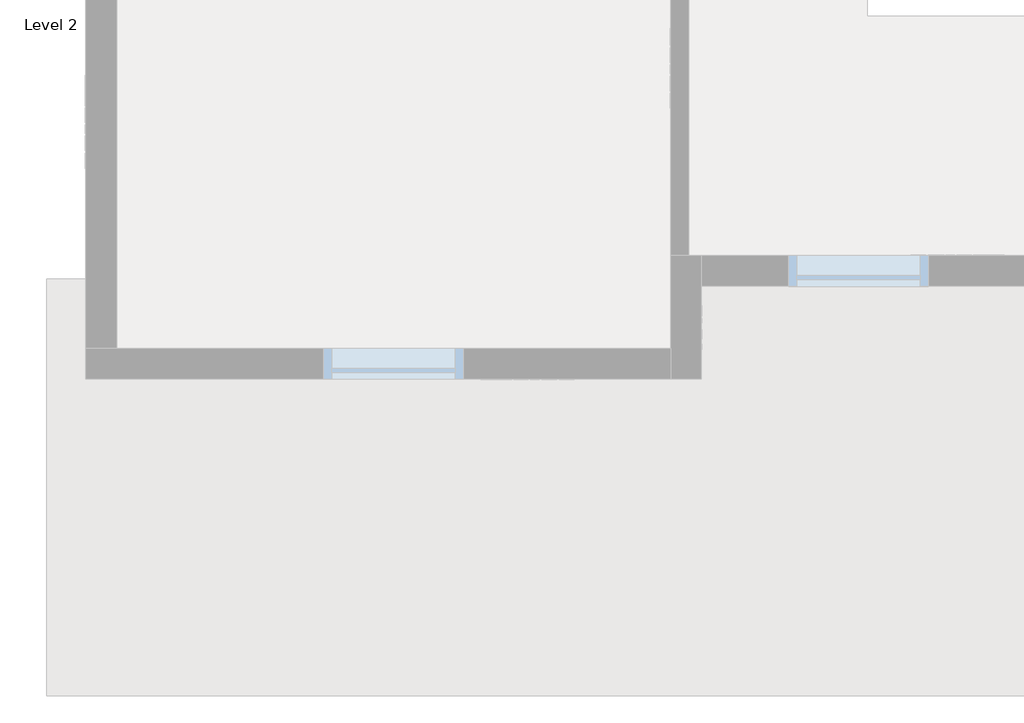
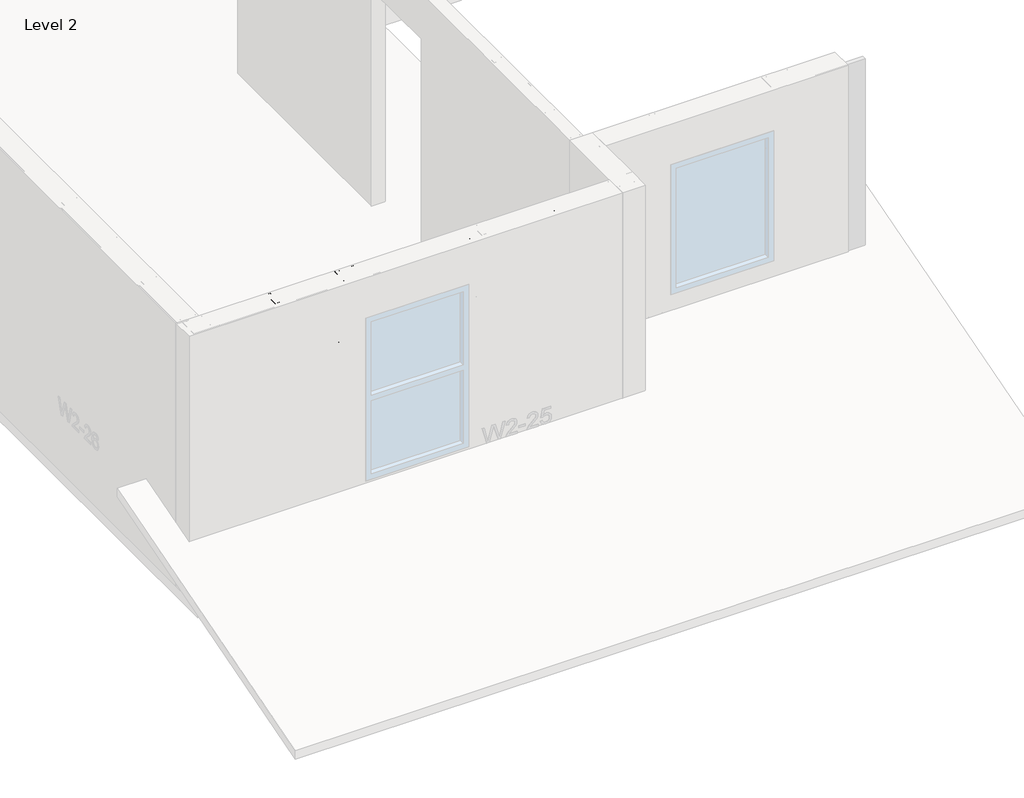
# One storey, part 3 of 46: 6 columns, 2 beams.
"""IFC4 building model written with IfcOpenShell, lengths in millimetres."""

from ifc_helpers import new_model, si_unit, point, frame, origin, place, context, project, spatial, circle_curve, ellipse_curve, trimmed, transform, mapped, element, save
from ifc_brep_helpers import plane_surface, extruded_surface, advanced_brep
from components import beam_550nf150_43_f91dca98, beam_550nf150_43_fce23402

model = new_model("IFC4")

# Units and contexts
model_context = context("Model", 3, world=origin())
ifc_project = project(units=[si_unit("LENGTHUNIT", "METRE", prefix="MILLI")], contexts=[model_context])

# Site, building, storey
site = spatial("IfcSite", under=ifc_project)
building = spatial("IfcBuilding", under=site)
storey = spatial("IfcBuildingStorey", under=building, Name="Level 2", Elevation=3060.7)

# Beams
placement = place(None, origin())
beam_550nf150_43_shape = beam_550nf150_43_f91dca98(model_context)
element("IfcBeam", 1, ObjectType="BIMSF-SSMA-S : 550NF150-43", at=placement, inside=storey, context=model_context, shape_type="MappedRepresentation", body=[
    mapped(beam_550nf150_43_shape, transform((-13289.0913349, 1882.902221, 3600.45), x_axis=(-1.0, 0.0, 0.0), y_axis=(0.0, 0.0, 1.0), z_axis=(0.0, 1.0, 0.0))),
])
beam_550nf150_43_2_shape = beam_550nf150_43_fce23402(model_context)
element("IfcBeam", 2, ObjectType="BIMSF-SSMA-S : 550NF150-43", at=placement, inside=storey, context=model_context, shape_type="MappedRepresentation", body=[
    mapped(beam_550nf150_43_2_shape, transform((-13358.9413349, 1882.902221, 3076.575), x_axis=(-1.0000000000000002, 0.0, 0.0), y_axis=(0.0, 0.0, -1.0000000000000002), z_axis=(0.0, -1.0000000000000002, 0.0))),
])

# Columns
element("IfcColumn", 3, ObjectType="BIMSF-SSMA-S-Column : 550NF150-43", at=placement, inside=storey, context=model_context, shape_type="AdvancedBrep", body=[
    advanced_brep(
    [(-12831.8913349, 1813.052221, 3061.5929687), (-12831.8913349, 1952.752221, 3061.5929687), (-12793.7913349, 1952.752221, 3061.5929687), (-12793.7913349, 1946.8273367, 3061.5929687), (-12794.9410191, 1946.8273367, 3061.5929687), (-12794.9410191, 1951.6025367, 3061.5929687), (-12830.7416507, 1951.6025367, 3061.5929687), (-12830.7416507, 1814.2019052, 3061.5929687), (-12794.9410191, 1814.2019052, 3061.5929687), (-12794.9410191, 1818.9771052, 3061.5929687), (-12793.7913349, 1818.9771052, 3061.5929687), (-12793.7913349, 1813.052221, 3061.5929687), (-12831.8913349, 1813.052221, 5523.6070313), (-12831.8913349, 1952.752221, 5523.6070313), (-12831.8913349, 1895.602221, 3671.1929688), (-12831.8913349, 1870.202221, 3671.1929688), (-12831.8913349, 1895.602221, 4890.3929687), (-12831.8913349, 1870.202221, 4890.3929687), (-12793.7913349, 1952.752221, 5523.6070313), (-12793.7913349, 1946.8273367, 5523.6070313), (-12794.9410191, 1946.8273367, 5523.6070313), (-12794.9410191, 1951.6025367, 5523.6070313), (-12830.7416507, 1951.6025367, 5523.6070313), (-12830.7416507, 1814.2019052, 5523.6070313), (-12830.7416507, 1870.202221, 3671.1929688), (-12830.7416507, 1895.602221, 3671.1929688), (-12830.7416507, 1870.202221, 4890.3929687), (-12830.7416507, 1895.602221, 4890.3929687), (-12794.9410191, 1814.2019052, 5523.6070313), (-12794.9410191, 1818.9771052, 5523.6070313), (-12793.7913349, 1818.9771052, 5523.6070313), (-12793.7913349, 1813.052221, 5523.6070313)],
    [
        (0, 1),
        (1, 2),
        (2, 3),
        (3, 4),
        (4, 5),
        (5, 6),
        (6, 7),
        (7, 8),
        (8, 9),
        (9, 10),
        (10, 11),
        (11, 0),
        (0, 12),
        (12, 13),
        (13, 1),
        (14, 15, circle_curve(frame((-12831.8913349, 1882.902221, 3671.1929687), z_axis=(1.0, 0.0, 0.0), x_axis=(0.0, 1.0, 0.0)), 12.7)),
        (15, 14, circle_curve(frame((-12831.8913349, 1882.902221, 3671.1929687), z_axis=(1.0, 0.0, 0.0), x_axis=(0.0, 1.0, 0.0)), 12.7)),
        (16, 17, circle_curve(frame((-12831.8913349, 1882.902221, 4890.3929687), z_axis=(1.0, 0.0, 0.0), x_axis=(0.0, 1.0, 0.0)), 12.7)),
        (17, 16, circle_curve(frame((-12831.8913349, 1882.902221, 4890.3929687), z_axis=(1.0, 0.0, 0.0), x_axis=(0.0, 1.0, 0.0)), 12.7)),
        (13, 18),
        (18, 2),
        (18, 19),
        (19, 3),
        (19, 20),
        (20, 4),
        (20, 21),
        (21, 5),
        (21, 22),
        (22, 6),
        (22, 23),
        (23, 7),
        (24, 25, circle_curve(frame((-12830.7416507, 1882.902221, 3671.1929687), z_axis=(-1.0, 0.0, 0.0), x_axis=(0.0, 1.0, 0.0)), 12.7)),
        (25, 24, circle_curve(frame((-12830.7416507, 1882.902221, 3671.1929687), z_axis=(-1.0, 0.0, 0.0), x_axis=(0.0, 1.0, 0.0)), 12.7)),
        (26, 27, circle_curve(frame((-12830.7416507, 1882.902221, 4890.3929687), z_axis=(-1.0, 0.0, 0.0), x_axis=(0.0, 1.0, 0.0)), 12.7)),
        (27, 26, circle_curve(frame((-12830.7416507, 1882.902221, 4890.3929687), z_axis=(-1.0, 0.0, 0.0), x_axis=(0.0, 1.0, 0.0)), 12.7)),
        (23, 28),
        (28, 8),
        (28, 29),
        (29, 9),
        (29, 30),
        (30, 10),
        (30, 31),
        (31, 11),
        (31, 12),
        (24, 15),
        (14, 25),
        (26, 17),
        (16, 27),
    ],
    [
        plane_surface(frame((-12831.8913349, 1813.052221, 3061.5929687), z_axis=(0.0, 0.0, -1.0), x_axis=(-1.0, 0.0, 0.0))),
        plane_surface(frame((-12831.8913349, 1952.752221, 5523.6070313), z_axis=(-1.0, 0.0, 0.0), x_axis=(0.0, 0.0, -1.0))),
        plane_surface(frame((-12793.7913349, 1952.752221, 5523.6070313), z_axis=(0.0, 1.0, 0.0), x_axis=(0.0, 0.0, -1.0))),
        plane_surface(frame((-12793.7913349, 1946.8273367, 5523.6070313), z_axis=(1.0, 0.0, 0.0), x_axis=(0.0, 0.0, -1.0))),
        plane_surface(frame((-12794.9410191, 1946.8273367, 5523.6070313), z_axis=(0.0, -1.0, 0.0), x_axis=(0.0, 0.0, -1.0))),
        plane_surface(frame((-12794.9410191, 1951.6025367, 5523.6070313), z_axis=(-1.0, 0.0, 0.0), x_axis=(0.0, 0.0, -1.0))),
        plane_surface(frame((-12830.7416507, 1951.6025367, 5523.6070313), z_axis=(0.0, -1.0, 0.0), x_axis=(0.0, 0.0, -1.0))),
        plane_surface(frame((-12830.7416507, 1814.2019052, 5523.6070313), z_axis=(1.0, 0.0, 0.0), x_axis=(0.0, 0.0, -1.0))),
        plane_surface(frame((-12794.9410191, 1814.2019052, 5523.6070313), z_axis=(0.0, 1.0, 0.0), x_axis=(0.0, 0.0, -1.0))),
        plane_surface(frame((-12794.9410191, 1818.9771052, 5523.6070313), z_axis=(-1.0, 0.0, 0.0), x_axis=(0.0, 0.0, -1.0))),
        plane_surface(frame((-12793.7913349, 1818.9771052, 5523.6070313), z_axis=(0.0, 1.0, 0.0), x_axis=(0.0, 0.0, -1.0))),
        plane_surface(frame((-12793.7913349, 1813.052221, 5523.6070313), z_axis=(1.0, 0.0, 0.0), x_axis=(0.0, 0.0, -1.0))),
        plane_surface(frame((-12831.8913349, 1813.052221, 5523.6070313), z_axis=(0.0, -1.0, 0.0), x_axis=(0.0, 0.0, -1.0))),
        plane_surface(frame((-12831.8913349, 1813.052221, 5523.6070313), z_axis=(0.0, 0.0, 1.0), x_axis=(1.0, 0.0, 0.0))),
        extruded_surface(trimmed(ellipse_curve(frame((-10350.8272724, 1882.902221, 3671.1929688), z_axis=(-1.0, 0.0, 0.0), x_axis=(0.0, 1.0, 0.0)), 12.7, 12.7), [point((-10350.8272724, 1870.202221, 3671.1929688))], [point((-10350.8272724, 1895.602221, 3671.1929688))], True, "CARTESIAN"), (4924.028125, 0.0, 0.0), 4924.028125),
        extruded_surface(trimmed(ellipse_curve(frame((-10350.8272724, 1882.902221, 3671.1929688), z_axis=(-1.0, 0.0, 0.0), x_axis=(0.0, 1.0, 0.0)), 12.7, 12.7), [point((-10350.8272724, 1895.602221, 3671.1929688))], [point((-10350.8272724, 1870.202221, 3671.1929688))], True, "CARTESIAN"), (4924.028125, 0.0, 0.0), 4924.028125),
        extruded_surface(trimmed(ellipse_curve(frame((-10350.8272724, 1882.902221, 4890.3929687), z_axis=(-1.0, 0.0, 0.0), x_axis=(0.0, 1.0, 0.0)), 12.7, 12.7), [point((-10350.8272724, 1870.202221, 4890.3929687))], [point((-10350.8272724, 1895.602221, 4890.3929687))], True, "CARTESIAN"), (4924.028125, 0.0, 0.0), 4924.028125),
        extruded_surface(trimmed(ellipse_curve(frame((-10350.8272724, 1882.902221, 4890.3929687), z_axis=(-1.0, 0.0, 0.0), x_axis=(0.0, 1.0, 0.0)), 12.7, 12.7), [point((-10350.8272724, 1895.602221, 4890.3929687))], [point((-10350.8272724, 1870.202221, 4890.3929687))], True, "CARTESIAN"), (4924.028125, 0.0, 0.0), 4924.028125),
    ],
    [
        (0, [[1, 2, 3, 4, 5, 6, 7, 8, 9, 10, 11, 12]]),
        (1, [[-1, 13, 14, 15], [16, 17], [18, 19]]),
        (2, [[-2, -15, 20, 21]]),
        (3, [[-3, -21, 22, 23]]),
        (4, [[-4, -23, 24, 25]]),
        (5, [[-5, -25, 26, 27]]),
        (6, [[-6, -27, 28, 29]]),
        (7, [[-7, -29, 30, 31], [32, 33], [34, 35]]),
        (8, [[-8, -31, 36, 37]]),
        (9, [[-9, -37, 38, 39]]),
        (10, [[-10, -39, 40, 41]]),
        (11, [[-11, -41, 42, 43]]),
        (12, [[-12, -43, 44, -13]]),
        (13, [[-14, -44, -42, -40, -38, -36, -30, -28, -26, -24, -22, -20]]),
        (14, [[45, -16, 46, -32]]),
        (15, [[-45, -33, -46, -17]]),
        (16, [[47, -18, 48, -34]]),
        (17, [[-47, -35, -48, -19]]),
    ],
),
])
element("IfcColumn", 4, ObjectType="BIMSF-SSMA-S-Column : 550NF150-43", at=placement, inside=storey, context=model_context, shape_type="AdvancedBrep", body=[
    advanced_brep(
    [(-13746.2913349, 1952.752221, 3061.5929687), (-13746.2913349, 1813.052221, 3061.5929687), (-13784.3913349, 1813.052221, 3061.5929687), (-13784.3913349, 1818.9771052, 3061.5929687), (-13783.2416507, 1818.9771052, 3061.5929687), (-13783.2416507, 1814.2019052, 3061.5929687), (-13747.4410191, 1814.2019052, 3061.5929687), (-13747.4410191, 1951.6025367, 3061.5929687), (-13783.2416507, 1951.6025367, 3061.5929687), (-13783.2416507, 1946.8273367, 3061.5929687), (-13784.3913349, 1946.8273367, 3061.5929687), (-13784.3913349, 1952.752221, 3061.5929687), (-13746.2913349, 1952.752221, 5523.6070313), (-13746.2913349, 1813.052221, 5523.6070313), (-13746.2913349, 1870.202221, 3671.1929688), (-13746.2913349, 1895.602221, 3671.1929688), (-13746.2913349, 1870.202221, 4890.3929687), (-13746.2913349, 1895.602221, 4890.3929687), (-13784.3913349, 1813.052221, 5523.6070313), (-13784.3913349, 1818.9771052, 5523.6070313), (-13783.2416507, 1818.9771052, 5523.6070313), (-13783.2416507, 1814.2019052, 5523.6070313), (-13747.4410191, 1814.2019052, 5523.6070313), (-13747.4410191, 1951.6025367, 5523.6070313), (-13747.4410191, 1895.602221, 3671.1929688), (-13747.4410191, 1870.202221, 3671.1929688), (-13747.4410191, 1895.602221, 4890.3929688), (-13747.4410191, 1870.202221, 4890.3929688), (-13783.2416507, 1951.6025367, 5523.6070313), (-13783.2416507, 1946.8273367, 5523.6070313), (-13784.3913349, 1946.8273367, 5523.6070313), (-13784.3913349, 1952.752221, 5523.6070313)],
    [
        (0, 1),
        (1, 2),
        (2, 3),
        (3, 4),
        (4, 5),
        (5, 6),
        (6, 7),
        (7, 8),
        (8, 9),
        (9, 10),
        (10, 11),
        (11, 0),
        (0, 12),
        (12, 13),
        (13, 1),
        (14, 15, circle_curve(frame((-13746.2913349, 1882.902221, 3671.1929688), z_axis=(-1.0, 0.0, 0.0), x_axis=(0.0, -1.0, 0.0)), 12.7)),
        (15, 14, circle_curve(frame((-13746.2913349, 1882.902221, 3671.1929687), z_axis=(-1.0, 0.0, 0.0), x_axis=(0.0, -1.0, 0.0)), 12.7)),
        (16, 17, circle_curve(frame((-13746.2913349, 1882.902221, 4890.3929687), z_axis=(-1.0, 0.0, 0.0), x_axis=(0.0, -1.0, 0.0)), 12.7)),
        (17, 16, circle_curve(frame((-13746.2913349, 1882.902221, 4890.3929687), z_axis=(-1.0, 0.0, 0.0), x_axis=(0.0, -1.0, 0.0)), 12.7)),
        (13, 18),
        (18, 2),
        (18, 19),
        (19, 3),
        (19, 20),
        (20, 4),
        (20, 21),
        (21, 5),
        (21, 22),
        (22, 6),
        (22, 23),
        (23, 7),
        (24, 25, circle_curve(frame((-13747.4410191, 1882.902221, 3671.1929687), z_axis=(1.0, 0.0, 0.0), x_axis=(0.0, -1.0, 0.0)), 12.7)),
        (25, 24, circle_curve(frame((-13747.4410191, 1882.902221, 3671.1929687), z_axis=(1.0, 0.0, 0.0), x_axis=(0.0, -1.0, 0.0)), 12.7)),
        (26, 27, circle_curve(frame((-13747.4410191, 1882.902221, 4890.3929687), z_axis=(1.0, 0.0, 0.0), x_axis=(0.0, -1.0, 0.0)), 12.7)),
        (27, 26, circle_curve(frame((-13747.4410191, 1882.902221, 4890.3929687), z_axis=(1.0, 0.0, 0.0), x_axis=(0.0, -1.0, 0.0)), 12.7)),
        (23, 28),
        (28, 8),
        (28, 29),
        (29, 9),
        (29, 30),
        (30, 10),
        (30, 31),
        (31, 11),
        (31, 12),
        (24, 15),
        (14, 25),
        (26, 17),
        (16, 27),
    ],
    [
        plane_surface(frame((-13746.2913349, 1952.752221, 3061.5929687), z_axis=(0.0, 0.0, -1.0), x_axis=(1.0, 0.0, 0.0))),
        plane_surface(frame((-13746.2913349, 1813.052221, 5523.6070313), z_axis=(1.0, 0.0, 0.0), x_axis=(0.0, 0.0, -1.0))),
        plane_surface(frame((-13784.3913349, 1813.052221, 5523.6070313), z_axis=(0.0, -1.0, 0.0), x_axis=(0.0, 0.0, -1.0))),
        plane_surface(frame((-13784.3913349, 1818.9771052, 5523.6070313), z_axis=(-1.0, 0.0, 0.0), x_axis=(0.0, 0.0, -1.0))),
        plane_surface(frame((-13783.2416507, 1818.9771052, 5523.6070313), z_axis=(0.0, 1.0, 0.0), x_axis=(0.0, 0.0, -1.0))),
        plane_surface(frame((-13783.2416507, 1814.2019052, 5523.6070313), z_axis=(1.0, 0.0, 0.0), x_axis=(0.0, 0.0, -1.0))),
        plane_surface(frame((-13747.4410191, 1814.2019052, 5523.6070313), z_axis=(0.0, 1.0, 0.0), x_axis=(0.0, 0.0, -1.0))),
        plane_surface(frame((-13747.4410191, 1951.6025367, 5523.6070313), z_axis=(-1.0, 0.0, 0.0), x_axis=(0.0, 0.0, -1.0))),
        plane_surface(frame((-13783.2416507, 1951.6025367, 5523.6070313), z_axis=(0.0, -1.0, 0.0), x_axis=(0.0, 0.0, -1.0))),
        plane_surface(frame((-13783.2416507, 1946.8273367, 5523.6070313), z_axis=(1.0, 0.0, 0.0), x_axis=(0.0, 0.0, -1.0))),
        plane_surface(frame((-13784.3913349, 1946.8273367, 5523.6070313), z_axis=(0.0, -1.0, 0.0), x_axis=(0.0, 0.0, -1.0))),
        plane_surface(frame((-13784.3913349, 1952.752221, 5523.6070313), z_axis=(-1.0, 0.0, 0.0), x_axis=(0.0, 0.0, -1.0))),
        plane_surface(frame((-13746.2913349, 1952.752221, 5523.6070313), z_axis=(0.0, 1.0, 0.0), x_axis=(0.0, 0.0, -1.0))),
        plane_surface(frame((-13746.2913349, 1952.752221, 5523.6070313), z_axis=(0.0, 0.0, 1.0), x_axis=(-1.0, 0.0, 0.0))),
        extruded_surface(trimmed(ellipse_curve(frame((-16227.3553974, 1882.902221, 3671.1929688), z_axis=(1.0, 0.0, 0.0), x_axis=(0.0, -1.0, 0.0)), 12.7, 12.7), [point((-16227.3553974, 1895.602221, 3671.1929688))], [point((-16227.3553974, 1870.202221, 3671.1929688))], True, "CARTESIAN"), (-4924.028124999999, 0.0, 0.0), 4924.028124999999),
        extruded_surface(trimmed(ellipse_curve(frame((-16227.3553974, 1882.902221, 3671.1929688), z_axis=(1.0, 0.0, 0.0), x_axis=(0.0, -1.0, 0.0)), 12.7, 12.7), [point((-16227.3553974, 1870.202221, 3671.1929688))], [point((-16227.3553974, 1895.602221, 3671.1929688))], True, "CARTESIAN"), (-4924.028124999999, 0.0, 0.0), 4924.028124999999),
        extruded_surface(trimmed(ellipse_curve(frame((-16227.3553974, 1882.902221, 4890.3929687), z_axis=(1.0, 0.0, 0.0), x_axis=(0.0, -1.0, 0.0)), 12.7, 12.7), [point((-16227.3553974, 1895.602221, 4890.3929687))], [point((-16227.3553974, 1870.202221, 4890.3929687))], True, "CARTESIAN"), (-4924.028124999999, 0.0, 0.0), 4924.028124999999),
        extruded_surface(trimmed(ellipse_curve(frame((-16227.3553974, 1882.902221, 4890.3929687), z_axis=(1.0, 0.0, 0.0), x_axis=(0.0, -1.0, 0.0)), 12.7, 12.7), [point((-16227.3553974, 1870.202221, 4890.3929687))], [point((-16227.3553974, 1895.602221, 4890.3929687))], True, "CARTESIAN"), (-4924.028124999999, 0.0, 0.0), 4924.028124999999),
    ],
    [
        (0, [[1, 2, 3, 4, 5, 6, 7, 8, 9, 10, 11, 12]]),
        (1, [[-1, 13, 14, 15], [16, 17], [18, 19]]),
        (2, [[-2, -15, 20, 21]]),
        (3, [[-3, -21, 22, 23]]),
        (4, [[-4, -23, 24, 25]]),
        (5, [[-5, -25, 26, 27]]),
        (6, [[-6, -27, 28, 29]]),
        (7, [[-7, -29, 30, 31], [32, 33], [34, 35]]),
        (8, [[-8, -31, 36, 37]]),
        (9, [[-9, -37, 38, 39]]),
        (10, [[-10, -39, 40, 41]]),
        (11, [[-11, -41, 42, 43]]),
        (12, [[-12, -43, 44, -13]]),
        (13, [[-14, -44, -42, -40, -38, -36, -30, -28, -26, -24, -22, -20]]),
        (14, [[45, -16, 46, -32]]),
        (15, [[-45, -33, -46, -17]]),
        (16, [[47, -18, 48, -34]]),
        (17, [[-47, -35, -48, -19]]),
    ],
),
])
element("IfcColumn", 5, ObjectType="BIMSF-SSMA-S-Column : 550NF150-43", at=placement, inside=storey, context=model_context, shape_type="AdvancedBrep", body=[
    advanced_brep(
    [(-12082.5913349, 1813.052221, 3061.5929687), (-12082.5913349, 1952.752221, 3061.5929687), (-12044.4913349, 1952.752221, 3061.5929687), (-12044.4913349, 1946.8273367, 3061.5929687), (-12045.6410191, 1946.8273367, 3061.5929687), (-12045.6410191, 1951.6025367, 3061.5929687), (-12081.4416507, 1951.6025367, 3061.5929687), (-12081.4416507, 1814.2019052, 3061.5929687), (-12045.6410191, 1814.2019052, 3061.5929687), (-12045.6410191, 1818.9771052, 3061.5929687), (-12044.4913349, 1818.9771052, 3061.5929687), (-12044.4913349, 1813.052221, 3061.5929687), (-12082.5913349, 1813.052221, 5523.6070313), (-12082.5913349, 1952.752221, 5523.6070313), (-12082.5913349, 1895.602221, 3671.1929688), (-12082.5913349, 1870.202221, 3671.1929688), (-12082.5913349, 1895.602221, 4890.3929687), (-12082.5913349, 1870.202221, 4890.3929687), (-12044.4913349, 1952.752221, 5523.6070313), (-12044.4913349, 1946.8273367, 5523.6070313), (-12045.6410191, 1946.8273367, 5523.6070313), (-12045.6410191, 1951.6025367, 5523.6070313), (-12081.4416507, 1951.6025367, 5523.6070313), (-12081.4416507, 1814.2019052, 5523.6070313), (-12081.4416507, 1870.202221, 3671.1929688), (-12081.4416507, 1895.602221, 3671.1929688), (-12081.4416507, 1870.202221, 4890.3929687), (-12081.4416507, 1895.602221, 4890.3929687), (-12045.6410191, 1814.2019052, 5523.6070313), (-12045.6410191, 1818.9771052, 5523.6070313), (-12044.4913349, 1818.9771052, 5523.6070313), (-12044.4913349, 1813.052221, 5523.6070313)],
    [
        (0, 1),
        (1, 2),
        (2, 3),
        (3, 4),
        (4, 5),
        (5, 6),
        (6, 7),
        (7, 8),
        (8, 9),
        (9, 10),
        (10, 11),
        (11, 0),
        (0, 12),
        (12, 13),
        (13, 1),
        (14, 15, circle_curve(frame((-12082.5913349, 1882.902221, 3671.1929688), z_axis=(1.0, 0.0, 0.0), x_axis=(0.0, 1.0, 0.0)), 12.7)),
        (15, 14, circle_curve(frame((-12082.5913349, 1882.902221, 3671.1929688), z_axis=(1.0, 0.0, 0.0), x_axis=(0.0, 1.0, 0.0)), 12.7)),
        (16, 17, circle_curve(frame((-12082.5913349, 1882.902221, 4890.3929687), z_axis=(1.0, 0.0, 0.0), x_axis=(0.0, 1.0, 0.0)), 12.7)),
        (17, 16, circle_curve(frame((-12082.5913349, 1882.902221, 4890.3929687), z_axis=(1.0, 0.0, 0.0), x_axis=(0.0, 1.0, 0.0)), 12.7)),
        (13, 18),
        (18, 2),
        (18, 19),
        (19, 3),
        (19, 20),
        (20, 4),
        (20, 21),
        (21, 5),
        (21, 22),
        (22, 6),
        (22, 23),
        (23, 7),
        (24, 25, circle_curve(frame((-12081.4416507, 1882.902221, 3671.1929687), z_axis=(-1.0, 0.0, 0.0), x_axis=(0.0, 1.0, 0.0)), 12.7)),
        (25, 24, circle_curve(frame((-12081.4416507, 1882.902221, 3671.1929687), z_axis=(-1.0, 0.0, 0.0), x_axis=(0.0, 1.0, 0.0)), 12.7)),
        (26, 27, circle_curve(frame((-12081.4416507, 1882.902221, 4890.3929687), z_axis=(-1.0, 0.0, 0.0), x_axis=(0.0, 1.0, 0.0)), 12.7)),
        (27, 26, circle_curve(frame((-12081.4416507, 1882.902221, 4890.3929687), z_axis=(-1.0, 0.0, 0.0), x_axis=(0.0, 1.0, 0.0)), 12.7)),
        (23, 28),
        (28, 8),
        (28, 29),
        (29, 9),
        (29, 30),
        (30, 10),
        (30, 31),
        (31, 11),
        (31, 12),
        (24, 15),
        (14, 25),
        (26, 17),
        (16, 27),
    ],
    [
        plane_surface(frame((-12082.5913349, 1813.052221, 3061.5929687), z_axis=(0.0, 0.0, -1.0), x_axis=(-1.0, 0.0, 0.0))),
        plane_surface(frame((-12082.5913349, 1952.752221, 5523.6070313), z_axis=(-1.0, 0.0, 0.0), x_axis=(0.0, 0.0, -1.0))),
        plane_surface(frame((-12044.4913349, 1952.752221, 5523.6070313), z_axis=(0.0, 1.0, 0.0), x_axis=(0.0, 0.0, -1.0))),
        plane_surface(frame((-12044.4913349, 1946.8273367, 5523.6070313), z_axis=(1.0, 0.0, 0.0), x_axis=(0.0, 0.0, -1.0))),
        plane_surface(frame((-12045.6410191, 1946.8273367, 5523.6070313), z_axis=(0.0, -1.0, 0.0), x_axis=(0.0, 0.0, -1.0))),
        plane_surface(frame((-12045.6410191, 1951.6025367, 5523.6070313), z_axis=(-1.0, 0.0, 0.0), x_axis=(0.0, 0.0, -1.0))),
        plane_surface(frame((-12081.4416507, 1951.6025367, 5523.6070313), z_axis=(0.0, -1.0, 0.0), x_axis=(0.0, 0.0, -1.0))),
        plane_surface(frame((-12081.4416507, 1814.2019052, 5523.6070313), z_axis=(1.0, 0.0, 0.0), x_axis=(0.0, 0.0, -1.0))),
        plane_surface(frame((-12045.6410191, 1814.2019052, 5523.6070313), z_axis=(0.0, 1.0, 0.0), x_axis=(0.0, 0.0, -1.0))),
        plane_surface(frame((-12045.6410191, 1818.9771052, 5523.6070313), z_axis=(-1.0, 0.0, 0.0), x_axis=(0.0, 0.0, -1.0))),
        plane_surface(frame((-12044.4913349, 1818.9771052, 5523.6070313), z_axis=(0.0, 1.0, 0.0), x_axis=(0.0, 0.0, -1.0))),
        plane_surface(frame((-12044.4913349, 1813.052221, 5523.6070313), z_axis=(1.0, 0.0, 0.0), x_axis=(0.0, 0.0, -1.0))),
        plane_surface(frame((-12082.5913349, 1813.052221, 5523.6070313), z_axis=(0.0, -1.0, 0.0), x_axis=(0.0, 0.0, -1.0))),
        plane_surface(frame((-12082.5913349, 1813.052221, 5523.6070313), z_axis=(0.0, 0.0, 1.0), x_axis=(1.0, 0.0, 0.0))),
        extruded_surface(trimmed(ellipse_curve(frame((-9601.5272724, 1882.902221, 3671.1929688), z_axis=(-1.0, 0.0, 0.0), x_axis=(0.0, 1.0, 0.0)), 12.7, 12.7), [point((-9601.5272724, 1870.202221, 3671.1929688))], [point((-9601.5272724, 1895.602221, 3671.1929688))], True, "CARTESIAN"), (4924.028125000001, 0.0, 0.0), 4924.028125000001),
        extruded_surface(trimmed(ellipse_curve(frame((-9601.5272724, 1882.902221, 3671.1929688), z_axis=(-1.0, 0.0, 0.0), x_axis=(0.0, 1.0, 0.0)), 12.7, 12.7), [point((-9601.5272724, 1895.602221, 3671.1929688))], [point((-9601.5272724, 1870.202221, 3671.1929688))], True, "CARTESIAN"), (4924.028125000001, 0.0, 0.0), 4924.028125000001),
        extruded_surface(trimmed(ellipse_curve(frame((-9601.5272724, 1882.902221, 4890.3929687), z_axis=(-1.0, 0.0, 0.0), x_axis=(0.0, 1.0, 0.0)), 12.7, 12.7), [point((-9601.5272724, 1870.202221, 4890.3929687))], [point((-9601.5272724, 1895.602221, 4890.3929687))], True, "CARTESIAN"), (4924.028125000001, 0.0, 0.0), 4924.028125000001),
        extruded_surface(trimmed(ellipse_curve(frame((-9601.5272724, 1882.902221, 4890.3929687), z_axis=(-1.0, 0.0, 0.0), x_axis=(0.0, 1.0, 0.0)), 12.7, 12.7), [point((-9601.5272724, 1895.602221, 4890.3929687))], [point((-9601.5272724, 1870.202221, 4890.3929687))], True, "CARTESIAN"), (4924.028125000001, 0.0, 0.0), 4924.028125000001),
    ],
    [
        (0, [[1, 2, 3, 4, 5, 6, 7, 8, 9, 10, 11, 12]]),
        (1, [[-1, 13, 14, 15], [16, 17], [18, 19]]),
        (2, [[-2, -15, 20, 21]]),
        (3, [[-3, -21, 22, 23]]),
        (4, [[-4, -23, 24, 25]]),
        (5, [[-5, -25, 26, 27]]),
        (6, [[-6, -27, 28, 29]]),
        (7, [[-7, -29, 30, 31], [32, 33], [34, 35]]),
        (8, [[-8, -31, 36, 37]]),
        (9, [[-9, -37, 38, 39]]),
        (10, [[-10, -39, 40, 41]]),
        (11, [[-11, -41, 42, 43]]),
        (12, [[-12, -43, 44, -13]]),
        (13, [[-14, -44, -42, -40, -38, -36, -30, -28, -26, -24, -22, -20]]),
        (14, [[45, -16, 46, -32]]),
        (15, [[-45, -33, -46, -17]]),
        (16, [[47, -18, 48, -34]]),
        (17, [[-47, -35, -48, -19]]),
    ],
),
])
element("IfcColumn", 6, ObjectType="BIMSF-SSMA-S-Column : 550NF150-43", at=placement, inside=storey, context=model_context, shape_type="AdvancedBrep", body=[
    advanced_brep(
    [(-13301.7913349, 1813.052221, 3061.5929687), (-13301.7913349, 1952.752221, 3061.5929687), (-13263.6913349, 1952.752221, 3061.5929687), (-13263.6913349, 1946.8273367, 3061.5929687), (-13264.8410191, 1946.8273367, 3061.5929687), (-13264.8410191, 1951.6025367, 3061.5929687), (-13300.6416507, 1951.6025367, 3061.5929687), (-13300.6416507, 1814.2019052, 3061.5929687), (-13264.8410191, 1814.2019052, 3061.5929687), (-13264.8410191, 1818.9771052, 3061.5929687), (-13263.6913349, 1818.9771052, 3061.5929687), (-13263.6913349, 1813.052221, 3061.5929687), (-13301.7913349, 1813.052221, 3615.4320313), (-13301.7913349, 1952.752221, 3615.4320313), (-13301.7913349, 1895.602221, 3366.3929687), (-13301.7913349, 1870.202221, 3366.3929687), (-13263.6913349, 1952.752221, 3615.4320313), (-13263.6913349, 1946.8273367, 3615.4320313), (-13264.8410191, 1946.8273367, 3615.4320313), (-13264.8410191, 1951.6025367, 3615.4320313), (-13300.6416507, 1951.6025367, 3615.4320313), (-13300.6416507, 1814.2019052, 3615.4320313), (-13300.6416507, 1870.202221, 3366.3929687), (-13300.6416507, 1895.602221, 3366.3929687), (-13264.8410191, 1814.2019052, 3615.4320313), (-13264.8410191, 1818.9771052, 3615.4320313), (-13263.6913349, 1818.9771052, 3615.4320313), (-13263.6913349, 1813.052221, 3615.4320313)],
    [
        (0, 1),
        (1, 2),
        (2, 3),
        (3, 4),
        (4, 5),
        (5, 6),
        (6, 7),
        (7, 8),
        (8, 9),
        (9, 10),
        (10, 11),
        (11, 0),
        (0, 12),
        (12, 13),
        (13, 1),
        (14, 15, circle_curve(frame((-13301.7913349, 1882.902221, 3366.3929688), z_axis=(1.0, 0.0, 0.0), x_axis=(0.0, 1.0, 0.0)), 12.7)),
        (15, 14, circle_curve(frame((-13301.7913349, 1882.902221, 3366.3929688), z_axis=(1.0, 0.0, 0.0), x_axis=(0.0, 1.0, 0.0)), 12.7)),
        (13, 16),
        (16, 2),
        (16, 17),
        (17, 3),
        (17, 18),
        (18, 4),
        (18, 19),
        (19, 5),
        (19, 20),
        (20, 6),
        (20, 21),
        (21, 7),
        (22, 23, circle_curve(frame((-13300.6416507, 1882.902221, 3366.3929687), z_axis=(-1.0, 0.0, 0.0), x_axis=(0.0, 1.0, 0.0)), 12.7)),
        (23, 22, circle_curve(frame((-13300.6416507, 1882.902221, 3366.3929687), z_axis=(-1.0, 0.0, 0.0), x_axis=(0.0, 1.0, 0.0)), 12.7)),
        (21, 24),
        (24, 8),
        (24, 25),
        (25, 9),
        (25, 26),
        (26, 10),
        (26, 27),
        (27, 11),
        (27, 12),
        (22, 15),
        (14, 23),
    ],
    [
        plane_surface(frame((-13301.7913349, 1813.052221, 3061.5929687), z_axis=(0.0, 0.0, -1.0), x_axis=(-1.0, 0.0, 0.0))),
        plane_surface(frame((-13301.7913349, 1952.752221, 3615.4320313), z_axis=(-1.0, 0.0, 0.0), x_axis=(0.0, 0.0, -1.0))),
        plane_surface(frame((-13263.6913349, 1952.752221, 3615.4320313), z_axis=(0.0, 1.0, 0.0), x_axis=(0.0, 0.0, -1.0))),
        plane_surface(frame((-13263.6913349, 1946.8273367, 3615.4320313), z_axis=(1.0, 0.0, 0.0), x_axis=(0.0, 0.0, -1.0))),
        plane_surface(frame((-13264.8410191, 1946.8273367, 3615.4320313), z_axis=(0.0, -1.0, 0.0), x_axis=(0.0, 0.0, -1.0))),
        plane_surface(frame((-13264.8410191, 1951.6025367, 3615.4320313), z_axis=(-1.0, 0.0, 0.0), x_axis=(0.0, 0.0, -1.0))),
        plane_surface(frame((-13300.6416507, 1951.6025367, 3615.4320313), z_axis=(0.0, -1.0, 0.0), x_axis=(0.0, 0.0, -1.0))),
        plane_surface(frame((-13300.6416507, 1814.2019052, 3615.4320313), z_axis=(1.0, 0.0, 0.0), x_axis=(0.0, 0.0, -1.0))),
        plane_surface(frame((-13264.8410191, 1814.2019052, 3615.4320313), z_axis=(0.0, 1.0, 0.0), x_axis=(0.0, 0.0, -1.0))),
        plane_surface(frame((-13264.8410191, 1818.9771052, 3615.4320313), z_axis=(-1.0, 0.0, 0.0), x_axis=(0.0, 0.0, -1.0))),
        plane_surface(frame((-13263.6913349, 1818.9771052, 3615.4320313), z_axis=(0.0, 1.0, 0.0), x_axis=(0.0, 0.0, -1.0))),
        plane_surface(frame((-13263.6913349, 1813.052221, 3615.4320313), z_axis=(1.0, 0.0, 0.0), x_axis=(0.0, 0.0, -1.0))),
        plane_surface(frame((-13301.7913349, 1813.052221, 3615.4320313), z_axis=(0.0, -1.0, 0.0), x_axis=(0.0, 0.0, -1.0))),
        plane_surface(frame((-13301.7913349, 1813.052221, 3615.4320313), z_axis=(0.0, 0.0, 1.0), x_axis=(1.0, 0.0, 0.0))),
        extruded_surface(trimmed(ellipse_curve(frame((-12728.9022724, 1882.902221, 3366.3929687), z_axis=(-1.0, 0.0, 0.0), x_axis=(0.0, 1.0, 0.0)), 12.7, 12.7), [point((-12728.9022724, 1870.202221, 3366.3929687))], [point((-12728.9022724, 1895.602221, 3366.3929687))], True, "CARTESIAN"), (1107.6781250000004, 0.0, 0.0), 1107.6781250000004),
        extruded_surface(trimmed(ellipse_curve(frame((-12728.9022724, 1882.902221, 3366.3929687), z_axis=(-1.0, 0.0, 0.0), x_axis=(0.0, 1.0, 0.0)), 12.7, 12.7), [point((-12728.9022724, 1895.602221, 3366.3929687))], [point((-12728.9022724, 1870.202221, 3366.3929687))], True, "CARTESIAN"), (1107.6781250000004, 0.0, 0.0), 1107.6781250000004),
    ],
    [
        (0, [[1, 2, 3, 4, 5, 6, 7, 8, 9, 10, 11, 12]]),
        (1, [[-1, 13, 14, 15], [16, 17]]),
        (2, [[-2, -15, 18, 19]]),
        (3, [[-3, -19, 20, 21]]),
        (4, [[-4, -21, 22, 23]]),
        (5, [[-5, -23, 24, 25]]),
        (6, [[-6, -25, 26, 27]]),
        (7, [[-7, -27, 28, 29], [30, 31]]),
        (8, [[-8, -29, 32, 33]]),
        (9, [[-9, -33, 34, 35]]),
        (10, [[-10, -35, 36, 37]]),
        (11, [[-11, -37, 38, 39]]),
        (12, [[-12, -39, 40, -13]]),
        (13, [[-14, -40, -38, -36, -34, -32, -28, -26, -24, -22, -20, -18]]),
        (14, [[41, -16, 42, -30]]),
        (15, [[-41, -31, -42, -17]]),
    ],
),
])
element("IfcColumn", 7, ObjectType="BIMSF-SSMA-S-Column : 550NF150-43", at=placement, inside=storey, context=model_context, shape_type="AdvancedBrep", body=[
    advanced_brep(
    [(-13911.3913349, 1813.052221, 3061.5929687), (-13911.3913349, 1952.752221, 3061.5929687), (-13873.2913349, 1952.752221, 3061.5929687), (-13873.2913349, 1946.8273367, 3061.5929687), (-13874.4410191, 1946.8273367, 3061.5929687), (-13874.4410191, 1951.6025367, 3061.5929687), (-13910.2416507, 1951.6025367, 3061.5929687), (-13910.2416507, 1814.2019052, 3061.5929687), (-13874.4410191, 1814.2019052, 3061.5929687), (-13874.4410191, 1818.9771052, 3061.5929687), (-13873.2913349, 1818.9771052, 3061.5929687), (-13873.2913349, 1813.052221, 3061.5929687), (-13911.3913349, 1813.052221, 5523.6070313), (-13911.3913349, 1952.752221, 5523.6070313), (-13911.3913349, 1895.602221, 3671.1929688), (-13911.3913349, 1870.202221, 3671.1929688), (-13911.3913349, 1895.602221, 4890.3929687), (-13911.3913349, 1870.202221, 4890.3929687), (-13873.2913349, 1952.752221, 5523.6070313), (-13873.2913349, 1946.8273367, 5523.6070313), (-13874.4410191, 1946.8273367, 5523.6070313), (-13874.4410191, 1951.6025367, 5523.6070313), (-13910.2416507, 1951.6025367, 5523.6070313), (-13910.2416507, 1814.2019052, 5523.6070313), (-13910.2416507, 1870.202221, 3671.1929688), (-13910.2416507, 1895.602221, 3671.1929688), (-13910.2416507, 1870.202221, 4890.3929687), (-13910.2416507, 1895.602221, 4890.3929687), (-13874.4410191, 1814.2019052, 5523.6070313), (-13874.4410191, 1818.9771052, 5523.6070313), (-13873.2913349, 1818.9771052, 5523.6070313), (-13873.2913349, 1813.052221, 5523.6070313)],
    [
        (0, 1),
        (1, 2),
        (2, 3),
        (3, 4),
        (4, 5),
        (5, 6),
        (6, 7),
        (7, 8),
        (8, 9),
        (9, 10),
        (10, 11),
        (11, 0),
        (0, 12),
        (12, 13),
        (13, 1),
        (14, 15, circle_curve(frame((-13911.3913349, 1882.902221, 3671.1929688), z_axis=(1.0, 0.0, 0.0), x_axis=(0.0, 1.0, 0.0)), 12.7)),
        (15, 14, circle_curve(frame((-13911.3913349, 1882.902221, 3671.1929688), z_axis=(1.0, 0.0, 0.0), x_axis=(0.0, 1.0, 0.0)), 12.7)),
        (16, 17, circle_curve(frame((-13911.3913349, 1882.902221, 4890.3929687), z_axis=(1.0, 0.0, 0.0), x_axis=(0.0, 1.0, 0.0)), 12.7)),
        (17, 16, circle_curve(frame((-13911.3913349, 1882.902221, 4890.3929687), z_axis=(1.0, 0.0, 0.0), x_axis=(0.0, 1.0, 0.0)), 12.7)),
        (13, 18),
        (18, 2),
        (18, 19),
        (19, 3),
        (19, 20),
        (20, 4),
        (20, 21),
        (21, 5),
        (21, 22),
        (22, 6),
        (22, 23),
        (23, 7),
        (24, 25, circle_curve(frame((-13910.2416507, 1882.902221, 3671.1929687), z_axis=(-1.0, 0.0, 0.0), x_axis=(0.0, 1.0, 0.0)), 12.7)),
        (25, 24, circle_curve(frame((-13910.2416507, 1882.902221, 3671.1929687), z_axis=(-1.0, 0.0, 0.0), x_axis=(0.0, 1.0, 0.0)), 12.7)),
        (26, 27, circle_curve(frame((-13910.2416507, 1882.902221, 4890.3929687), z_axis=(-1.0, 0.0, 0.0), x_axis=(0.0, 1.0, 0.0)), 12.7)),
        (27, 26, circle_curve(frame((-13910.2416507, 1882.902221, 4890.3929687), z_axis=(-1.0, 0.0, 0.0), x_axis=(0.0, 1.0, 0.0)), 12.7)),
        (23, 28),
        (28, 8),
        (28, 29),
        (29, 9),
        (29, 30),
        (30, 10),
        (30, 31),
        (31, 11),
        (31, 12),
        (24, 15),
        (14, 25),
        (26, 17),
        (16, 27),
    ],
    [
        plane_surface(frame((-13911.3913349, 1813.052221, 3061.5929687), z_axis=(0.0, 0.0, -1.0), x_axis=(-1.0, 0.0, 0.0))),
        plane_surface(frame((-13911.3913349, 1952.752221, 5523.6070313), z_axis=(-1.0, 0.0, 0.0), x_axis=(0.0, 0.0, -1.0))),
        plane_surface(frame((-13873.2913349, 1952.752221, 5523.6070313), z_axis=(0.0, 1.0, 0.0), x_axis=(0.0, 0.0, -1.0))),
        plane_surface(frame((-13873.2913349, 1946.8273367, 5523.6070313), z_axis=(1.0, 0.0, 0.0), x_axis=(0.0, 0.0, -1.0))),
        plane_surface(frame((-13874.4410191, 1946.8273367, 5523.6070313), z_axis=(0.0, -1.0, 0.0), x_axis=(0.0, 0.0, -1.0))),
        plane_surface(frame((-13874.4410191, 1951.6025367, 5523.6070313), z_axis=(-1.0, 0.0, 0.0), x_axis=(0.0, 0.0, -1.0))),
        plane_surface(frame((-13910.2416507, 1951.6025367, 5523.6070313), z_axis=(0.0, -1.0, 0.0), x_axis=(0.0, 0.0, -1.0))),
        plane_surface(frame((-13910.2416507, 1814.2019052, 5523.6070313), z_axis=(1.0, 0.0, 0.0), x_axis=(0.0, 0.0, -1.0))),
        plane_surface(frame((-13874.4410191, 1814.2019052, 5523.6070313), z_axis=(0.0, 1.0, 0.0), x_axis=(0.0, 0.0, -1.0))),
        plane_surface(frame((-13874.4410191, 1818.9771052, 5523.6070313), z_axis=(-1.0, 0.0, 0.0), x_axis=(0.0, 0.0, -1.0))),
        plane_surface(frame((-13873.2913349, 1818.9771052, 5523.6070313), z_axis=(0.0, 1.0, 0.0), x_axis=(0.0, 0.0, -1.0))),
        plane_surface(frame((-13873.2913349, 1813.052221, 5523.6070313), z_axis=(1.0, 0.0, 0.0), x_axis=(0.0, 0.0, -1.0))),
        plane_surface(frame((-13911.3913349, 1813.052221, 5523.6070313), z_axis=(0.0, -1.0, 0.0), x_axis=(0.0, 0.0, -1.0))),
        plane_surface(frame((-13911.3913349, 1813.052221, 5523.6070313), z_axis=(0.0, 0.0, 1.0), x_axis=(1.0, 0.0, 0.0))),
        extruded_surface(trimmed(ellipse_curve(frame((-11430.3272724, 1882.902221, 3671.1929688), z_axis=(-1.0, 0.0, 0.0), x_axis=(0.0, 1.0, 0.0)), 12.7, 12.7), [point((-11430.3272724, 1870.202221, 3671.1929688))], [point((-11430.3272724, 1895.602221, 3671.1929688))], True, "CARTESIAN"), (4924.028125, 0.0, 0.0), 4924.028125),
        extruded_surface(trimmed(ellipse_curve(frame((-11430.3272724, 1882.902221, 3671.1929688), z_axis=(-1.0, 0.0, 0.0), x_axis=(0.0, 1.0, 0.0)), 12.7, 12.7), [point((-11430.3272724, 1895.602221, 3671.1929688))], [point((-11430.3272724, 1870.202221, 3671.1929688))], True, "CARTESIAN"), (4924.028125, 0.0, 0.0), 4924.028125),
        extruded_surface(trimmed(ellipse_curve(frame((-11430.3272724, 1882.902221, 4890.3929687), z_axis=(-1.0, 0.0, 0.0), x_axis=(0.0, 1.0, 0.0)), 12.7, 12.7), [point((-11430.3272724, 1870.202221, 4890.3929687))], [point((-11430.3272724, 1895.602221, 4890.3929687))], True, "CARTESIAN"), (4924.028125, 0.0, 0.0), 4924.028125),
        extruded_surface(trimmed(ellipse_curve(frame((-11430.3272724, 1882.902221, 4890.3929687), z_axis=(-1.0, 0.0, 0.0), x_axis=(0.0, 1.0, 0.0)), 12.7, 12.7), [point((-11430.3272724, 1895.602221, 4890.3929687))], [point((-11430.3272724, 1870.202221, 4890.3929687))], True, "CARTESIAN"), (4924.028125, 0.0, 0.0), 4924.028125),
    ],
    [
        (0, [[1, 2, 3, 4, 5, 6, 7, 8, 9, 10, 11, 12]]),
        (1, [[-1, 13, 14, 15], [16, 17], [18, 19]]),
        (2, [[-2, -15, 20, 21]]),
        (3, [[-3, -21, 22, 23]]),
        (4, [[-4, -23, 24, 25]]),
        (5, [[-5, -25, 26, 27]]),
        (6, [[-6, -27, 28, 29]]),
        (7, [[-7, -29, 30, 31], [32, 33], [34, 35]]),
        (8, [[-8, -31, 36, 37]]),
        (9, [[-9, -37, 38, 39]]),
        (10, [[-10, -39, 40, 41]]),
        (11, [[-11, -41, 42, 43]]),
        (12, [[-12, -43, 44, -13]]),
        (13, [[-14, -44, -42, -40, -38, -36, -30, -28, -26, -24, -22, -20]]),
        (14, [[45, -16, 46, -32]]),
        (15, [[-45, -33, -46, -17]]),
        (16, [[47, -18, 48, -34]]),
        (17, [[-47, -35, -48, -19]]),
    ],
),
])
element("IfcColumn", 8, ObjectType="BIMSF-SSMA-S-Column : 550NF150-43", at=placement, inside=storey, context=model_context, shape_type="AdvancedBrep", body=[
    advanced_brep(
    [(-14520.9913349, 1813.052221, 3061.5929687), (-14520.9913349, 1952.752221, 3061.5929687), (-14482.8913349, 1952.752221, 3061.5929687), (-14482.8913349, 1946.8273367, 3061.5929687), (-14484.0410191, 1946.8273367, 3061.5929687), (-14484.0410191, 1951.6025367, 3061.5929687), (-14519.8416507, 1951.6025367, 3061.5929687), (-14519.8416507, 1814.2019052, 3061.5929687), (-14484.0410191, 1814.2019052, 3061.5929687), (-14484.0410191, 1818.9771052, 3061.5929687), (-14482.8913349, 1818.9771052, 3061.5929687), (-14482.8913349, 1813.052221, 3061.5929687), (-14520.9913349, 1813.052221, 5523.6070313), (-14520.9913349, 1952.752221, 5523.6070313), (-14520.9913349, 1895.602221, 3671.1929688), (-14520.9913349, 1870.202221, 3671.1929688), (-14520.9913349, 1895.602221, 4890.3929687), (-14520.9913349, 1870.202221, 4890.3929687), (-14482.8913349, 1952.752221, 5523.6070313), (-14482.8913349, 1946.8273367, 5523.6070313), (-14484.0410191, 1946.8273367, 5523.6070313), (-14484.0410191, 1951.6025367, 5523.6070313), (-14519.8416507, 1951.6025367, 5523.6070313), (-14519.8416507, 1814.2019052, 5523.6070313), (-14519.8416507, 1870.202221, 3671.1929688), (-14519.8416507, 1895.602221, 3671.1929688), (-14519.8416507, 1870.202221, 4890.3929687), (-14519.8416507, 1895.602221, 4890.3929687), (-14484.0410191, 1814.2019052, 5523.6070313), (-14484.0410191, 1818.9771052, 5523.6070313), (-14482.8913349, 1818.9771052, 5523.6070313), (-14482.8913349, 1813.052221, 5523.6070313)],
    [
        (0, 1),
        (1, 2),
        (2, 3),
        (3, 4),
        (4, 5),
        (5, 6),
        (6, 7),
        (7, 8),
        (8, 9),
        (9, 10),
        (10, 11),
        (11, 0),
        (0, 12),
        (12, 13),
        (13, 1),
        (14, 15, circle_curve(frame((-14520.9913349, 1882.902221, 3671.1929688), z_axis=(1.0, 0.0, 0.0), x_axis=(0.0, 1.0, 0.0)), 12.7)),
        (15, 14, circle_curve(frame((-14520.9913349, 1882.902221, 3671.1929688), z_axis=(1.0, 0.0, 0.0), x_axis=(0.0, 1.0, 0.0)), 12.7)),
        (16, 17, circle_curve(frame((-14520.9913349, 1882.902221, 4890.3929687), z_axis=(1.0, 0.0, 0.0), x_axis=(0.0, 1.0, 0.0)), 12.7)),
        (17, 16, circle_curve(frame((-14520.9913349, 1882.902221, 4890.3929687), z_axis=(1.0, 0.0, 0.0), x_axis=(0.0, 1.0, 0.0)), 12.7)),
        (13, 18),
        (18, 2),
        (18, 19),
        (19, 3),
        (19, 20),
        (20, 4),
        (20, 21),
        (21, 5),
        (21, 22),
        (22, 6),
        (22, 23),
        (23, 7),
        (24, 25, circle_curve(frame((-14519.8416507, 1882.902221, 3671.1929687), z_axis=(-1.0, 0.0, 0.0), x_axis=(0.0, 1.0, 0.0)), 12.7)),
        (25, 24, circle_curve(frame((-14519.8416507, 1882.902221, 3671.1929687), z_axis=(-1.0, 0.0, 0.0), x_axis=(0.0, 1.0, 0.0)), 12.7)),
        (26, 27, circle_curve(frame((-14519.8416507, 1882.902221, 4890.3929687), z_axis=(-1.0, 0.0, 0.0), x_axis=(0.0, 1.0, 0.0)), 12.7)),
        (27, 26, circle_curve(frame((-14519.8416507, 1882.902221, 4890.3929687), z_axis=(-1.0, 0.0, 0.0), x_axis=(0.0, 1.0, 0.0)), 12.7)),
        (23, 28),
        (28, 8),
        (28, 29),
        (29, 9),
        (29, 30),
        (30, 10),
        (30, 31),
        (31, 11),
        (31, 12),
        (24, 15),
        (14, 25),
        (26, 17),
        (16, 27),
    ],
    [
        plane_surface(frame((-14520.9913349, 1813.052221, 3061.5929687), z_axis=(0.0, 0.0, -1.0), x_axis=(-1.0, 0.0, 0.0))),
        plane_surface(frame((-14520.9913349, 1952.752221, 5523.6070313), z_axis=(-1.0, 0.0, 0.0), x_axis=(0.0, 0.0, -1.0))),
        plane_surface(frame((-14482.8913349, 1952.752221, 5523.6070313), z_axis=(0.0, 1.0, 0.0), x_axis=(0.0, 0.0, -1.0))),
        plane_surface(frame((-14482.8913349, 1946.8273367, 5523.6070313), z_axis=(1.0, 0.0, 0.0), x_axis=(0.0, 0.0, -1.0))),
        plane_surface(frame((-14484.0410191, 1946.8273367, 5523.6070313), z_axis=(0.0, -1.0, 0.0), x_axis=(0.0, 0.0, -1.0))),
        plane_surface(frame((-14484.0410191, 1951.6025367, 5523.6070313), z_axis=(-1.0, 0.0, 0.0), x_axis=(0.0, 0.0, -1.0))),
        plane_surface(frame((-14519.8416507, 1951.6025367, 5523.6070313), z_axis=(0.0, -1.0, 0.0), x_axis=(0.0, 0.0, -1.0))),
        plane_surface(frame((-14519.8416507, 1814.2019052, 5523.6070313), z_axis=(1.0, 0.0, 0.0), x_axis=(0.0, 0.0, -1.0))),
        plane_surface(frame((-14484.0410191, 1814.2019052, 5523.6070313), z_axis=(0.0, 1.0, 0.0), x_axis=(0.0, 0.0, -1.0))),
        plane_surface(frame((-14484.0410191, 1818.9771052, 5523.6070313), z_axis=(-1.0, 0.0, 0.0), x_axis=(0.0, 0.0, -1.0))),
        plane_surface(frame((-14482.8913349, 1818.9771052, 5523.6070313), z_axis=(0.0, 1.0, 0.0), x_axis=(0.0, 0.0, -1.0))),
        plane_surface(frame((-14482.8913349, 1813.052221, 5523.6070313), z_axis=(1.0, 0.0, 0.0), x_axis=(0.0, 0.0, -1.0))),
        plane_surface(frame((-14520.9913349, 1813.052221, 5523.6070313), z_axis=(0.0, -1.0, 0.0), x_axis=(0.0, 0.0, -1.0))),
        plane_surface(frame((-14520.9913349, 1813.052221, 5523.6070313), z_axis=(0.0, 0.0, 1.0), x_axis=(1.0, 0.0, 0.0))),
        extruded_surface(trimmed(ellipse_curve(frame((-12039.9272724, 1882.902221, 3671.1929688), z_axis=(-1.0, 0.0, 0.0), x_axis=(0.0, 1.0, 0.0)), 12.7, 12.7), [point((-12039.9272724, 1870.202221, 3671.1929688))], [point((-12039.9272724, 1895.602221, 3671.1929688))], True, "CARTESIAN"), (4924.028125, 0.0, 0.0), 4924.028125),
        extruded_surface(trimmed(ellipse_curve(frame((-12039.9272724, 1882.902221, 3671.1929688), z_axis=(-1.0, 0.0, 0.0), x_axis=(0.0, 1.0, 0.0)), 12.7, 12.7), [point((-12039.9272724, 1895.602221, 3671.1929688))], [point((-12039.9272724, 1870.202221, 3671.1929688))], True, "CARTESIAN"), (4924.028125, 0.0, 0.0), 4924.028125),
        extruded_surface(trimmed(ellipse_curve(frame((-12039.9272724, 1882.902221, 4890.3929687), z_axis=(-1.0, 0.0, 0.0), x_axis=(0.0, 1.0, 0.0)), 12.7, 12.7), [point((-12039.9272724, 1870.202221, 4890.3929687))], [point((-12039.9272724, 1895.602221, 4890.3929687))], True, "CARTESIAN"), (4924.028125, 0.0, 0.0), 4924.028125),
        extruded_surface(trimmed(ellipse_curve(frame((-12039.9272724, 1882.902221, 4890.3929687), z_axis=(-1.0, 0.0, 0.0), x_axis=(0.0, 1.0, 0.0)), 12.7, 12.7), [point((-12039.9272724, 1895.602221, 4890.3929687))], [point((-12039.9272724, 1870.202221, 4890.3929687))], True, "CARTESIAN"), (4924.028125, 0.0, 0.0), 4924.028125),
    ],
    [
        (0, [[1, 2, 3, 4, 5, 6, 7, 8, 9, 10, 11, 12]]),
        (1, [[-1, 13, 14, 15], [16, 17], [18, 19]]),
        (2, [[-2, -15, 20, 21]]),
        (3, [[-3, -21, 22, 23]]),
        (4, [[-4, -23, 24, 25]]),
        (5, [[-5, -25, 26, 27]]),
        (6, [[-6, -27, 28, 29]]),
        (7, [[-7, -29, 30, 31], [32, 33], [34, 35]]),
        (8, [[-8, -31, 36, 37]]),
        (9, [[-9, -37, 38, 39]]),
        (10, [[-10, -39, 40, 41]]),
        (11, [[-11, -41, 42, 43]]),
        (12, [[-12, -43, 44, -13]]),
        (13, [[-14, -44, -42, -40, -38, -36, -30, -28, -26, -24, -22, -20]]),
        (14, [[45, -16, 46, -32]]),
        (15, [[-45, -33, -46, -17]]),
        (16, [[47, -18, 48, -34]]),
        (17, [[-47, -35, -48, -19]]),
    ],
),
])

save(model, "model.ifc")
